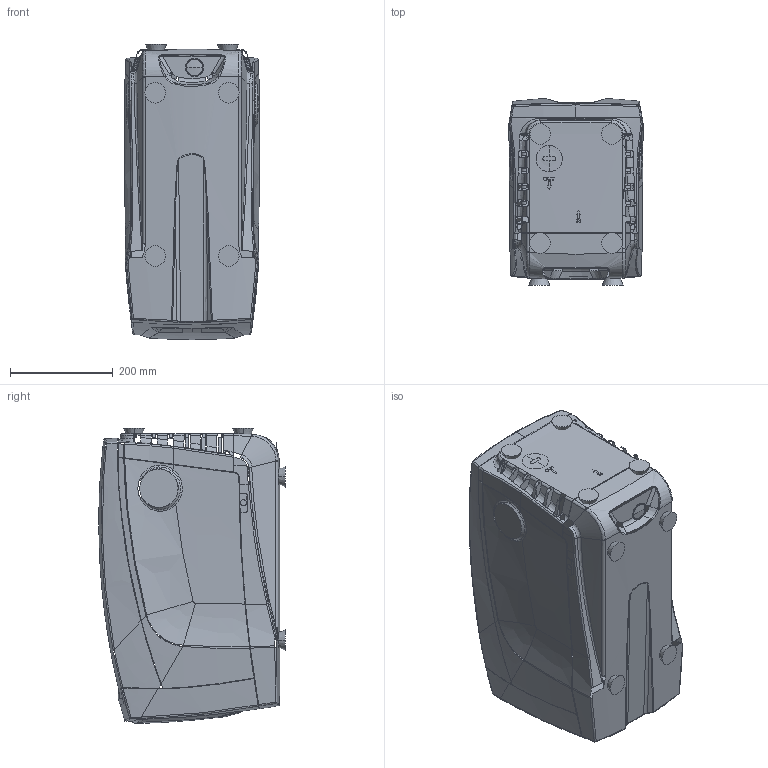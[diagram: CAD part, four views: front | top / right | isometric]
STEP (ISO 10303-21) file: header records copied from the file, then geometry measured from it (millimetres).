
FILE_DESCRIPTION((''),'2;1');
FILE_NAME('60147200_SW0001','2014-03-24T',('extrd02'),(''),'PRO/ENGINEER BY PARAMETRIC TECHNOLOGY CORPORATION, 2011490','PRO/ENGINEER BY PARAMETRIC TECHNOLOGY CORPORATION, 2011490','');
FILE_SCHEMA(('CONFIG_CONTROL_DESIGN'));
Length unit declared in the file: millimetre
Products named in the file (1): 60147200_SW0001
Bounding box: 262.46 x 362.71 x 573.84 mm (x, y, z)
Surface area: 836208.2 mm2 (no closed solid volume)
Topology: 0 solids, 90 shells, 327 faces, 1795 edges, 1505 vertices
Faces by surface type: bspline 191, plane 47, cone 33, cylinder 30, extrusion 8, sphere 7, revolution 6, torus 5
Entity records: 29547 total; most frequent: CARTESIAN_POINT 19294, ORIENTED_EDGE 2139, EDGE_CURVE 1789, VERTEX_POINT 1505, B_SPLINE_CURVE_WITH_KNOTS 1273, DIRECTION 1063, AXIS2_PLACEMENT_3D 397, EDGE_LOOP 329
